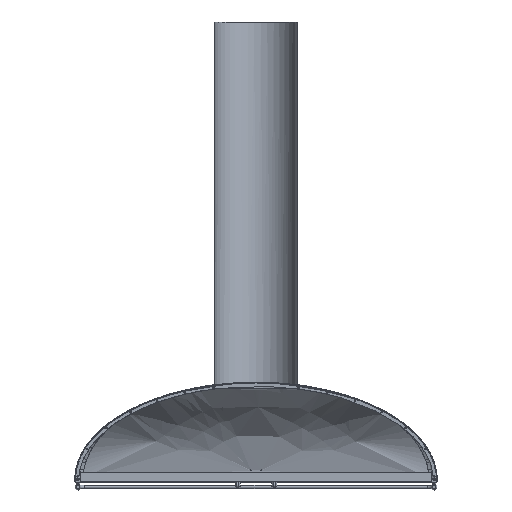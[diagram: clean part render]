
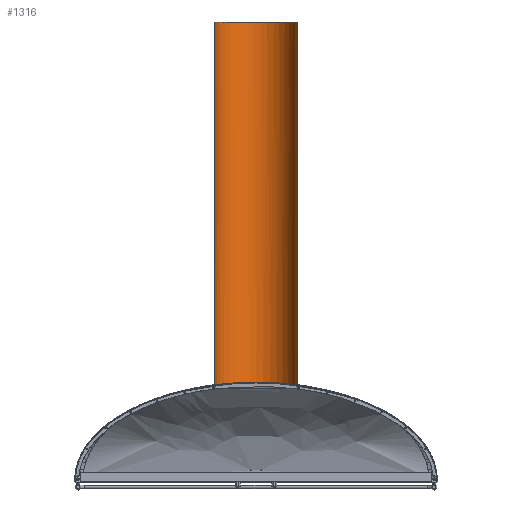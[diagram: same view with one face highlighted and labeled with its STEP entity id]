
A CAD part, left-side view. The second image highlights one B-rep face of the part: STEP entity #1316.
In plain terms, the highlighted cylindrical face has radius 101.3 mm (diameter 202.6 mm), a partial arc.
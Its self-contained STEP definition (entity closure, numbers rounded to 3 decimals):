
#1316=ADVANCED_FACE('',(#2512),#2513,.F.);
#2512=FACE_OUTER_BOUND('',#4317,.T.);
#2513=CYLINDRICAL_SURFACE('',#4318,101.3);
#4317=EDGE_LOOP('',(#10876,#10877,#10878,#10879));
#4318=AXIS2_PLACEMENT_3D('',#10880,#10881,#10882);
#10876=ORIENTED_EDGE('',*,*,#13812,.F.);
#10877=ORIENTED_EDGE('',*,*,#13660,.T.);
#10878=ORIENTED_EDGE('',*,*,#13810,.T.);
#10879=ORIENTED_EDGE('',*,*,#13813,.F.);
#10880=CARTESIAN_POINT('',(98.0,0.,673.399));
#10881=DIRECTION('',(0.0,-0.0,1.0));
#10882=DIRECTION('',(-1.,0.,0.0));
#13660=EDGE_CURVE('',#15906,#15902,#15907,.T.);
#13810=EDGE_CURVE('',#15902,#16153,#16156,.T.);
#13812=EDGE_CURVE('',#15906,#16158,#16159,.T.);
#13813=EDGE_CURVE('',#16158,#16153,#16160,.T.);
#15902=VERTEX_POINT('',#20517);
#15906=VERTEX_POINT('',#20524);
#15907=LINE('',#20525,#20526);
#16153=VERTEX_POINT('',#21240);
#16156=B_SPLINE_CURVE_WITH_KNOTS('',5,(#21244,#21245,#21246,#21247,#21248,#21249,#21250,#21251,#21252,#21253,#21254,#21255,#21256,#21257,#21258),.UNSPECIFIED.,.F.,.F.,(6,3,3,3,6),(0.0,80.111,160.221,240.332,320.442),.UNSPECIFIED.);
#16158=VERTEX_POINT('',#21274);
#16159=CIRCLE('',#21275,101.3);
#16160=LINE('',#21276,#21277);
#20517=CARTESIAN_POINT('',(98.0,-101.3,1123.399));
#20524=CARTESIAN_POINT('',(98.0,-101.3,223.399));
#20525=CARTESIAN_POINT('',(98.0,-101.3,673.399));
#20526=VECTOR('',#27205,1.0);
#21240=CARTESIAN_POINT('',(98.,101.3,1123.399));
#21244=CARTESIAN_POINT('',(98.0,-101.3,1123.399));
#21245=CARTESIAN_POINT('',(113.912,-101.3,1123.399));
#21246=CARTESIAN_POINT('',(129.824,-98.176,1123.399));
#21247=CARTESIAN_POINT('',(144.917,-91.924,1123.399));
#21248=CARTESIAN_POINT('',(171.839,-73.839,1123.399));
#21249=CARTESIAN_POINT('',(189.924,-46.917,1123.399));
#21250=CARTESIAN_POINT('',(196.176,-31.824,1123.399));
#21251=CARTESIAN_POINT('',(202.424,0.,1123.399));
#21252=CARTESIAN_POINT('',(196.176,31.824,1123.399));
#21253=CARTESIAN_POINT('',(189.924,46.917,1123.399));
#21254=CARTESIAN_POINT('',(171.839,73.839,1123.399));
#21255=CARTESIAN_POINT('',(144.917,91.924,1123.399));
#21256=CARTESIAN_POINT('',(129.824,98.176,1123.399));
#21257=CARTESIAN_POINT('',(113.912,101.3,1123.399));
#21258=CARTESIAN_POINT('',(98.,101.3,1123.399));
#21274=CARTESIAN_POINT('',(98.,101.3,223.399));
#21275=AXIS2_PLACEMENT_3D('',#27312,#27313,#27314);
#21276=CARTESIAN_POINT('',(98.,101.3,673.399));
#21277=VECTOR('',#27315,1.0);
#27205=DIRECTION('',(0.0,0.0,1.0));
#27312=CARTESIAN_POINT('',(98.0,0.,223.399));
#27313=DIRECTION('',(0.0,0.0,1.0));
#27314=DIRECTION('',(1.0,0.0,0.0));
#27315=DIRECTION('',(0.0,0.0,1.0));
